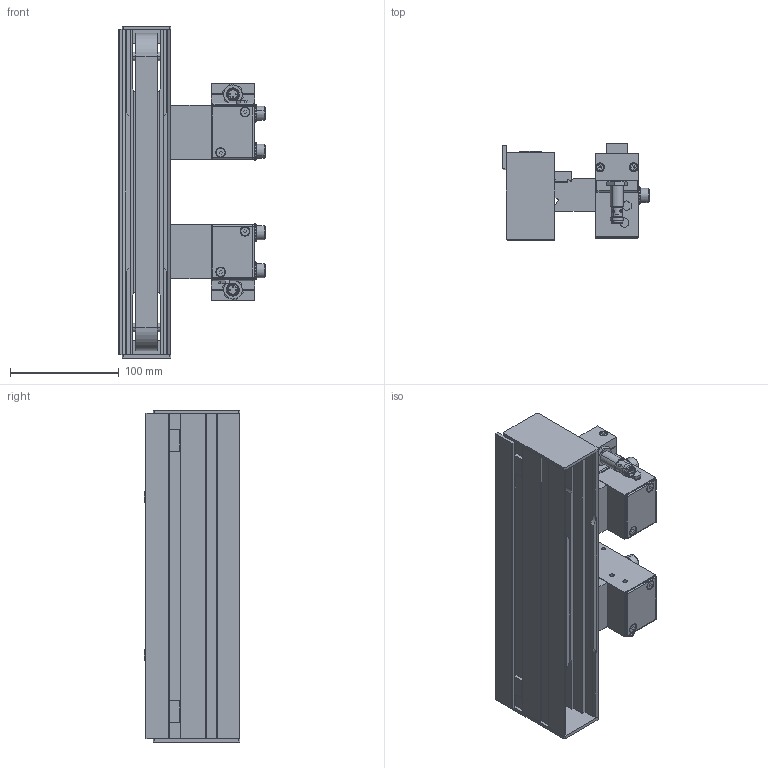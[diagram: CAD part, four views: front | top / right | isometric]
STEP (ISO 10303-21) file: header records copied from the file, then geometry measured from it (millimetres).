
FILE_DESCRIPTION (( 'STEP AP214' ), '1' );
FILE_NAME ('Stop.STEP', '2026-08-11T08:33:33', ( '' ), ( '' ), 'SwSTEP 2.0', 'SolidWorks 2025', '' );
FILE_SCHEMA (( 'AUTOMOTIVE_DESIGN' ));
Length unit declared in the file: millimetre
Products named in the file (4): Stop; Stop r_PDB; Stop l_PDB; Traegerprofil1
Assembly tree (3 placements, depth 2):
  Stop
    Traegerprofil1
    Stop r_PDB
    Stop l_PDB
Bounding box: 134.6 x 88.11 x 306 mm (x, y, z)
Volume: 412645.4 mm3; surface area: 290326.2 mm2
Topology: 1 solids, 63 shells, 885 faces, 2452 edges, 1629 vertices
Faces by surface type: plane 553, cylinder 232, cone 84, sphere 12, bspline 4
Full cylindrical faces by diameter (mm): 7.85 x2
Entity records: 38405 total; most frequent: CARTESIAN_POINT 6887, DIRECTION 4691, ORIENTED_EDGE 4283, EDGE_CURVE 2438, VERTEX_POINT 1629, AXIS2_PLACEMENT_3D 1569, VECTOR 1553, LINE 1553
